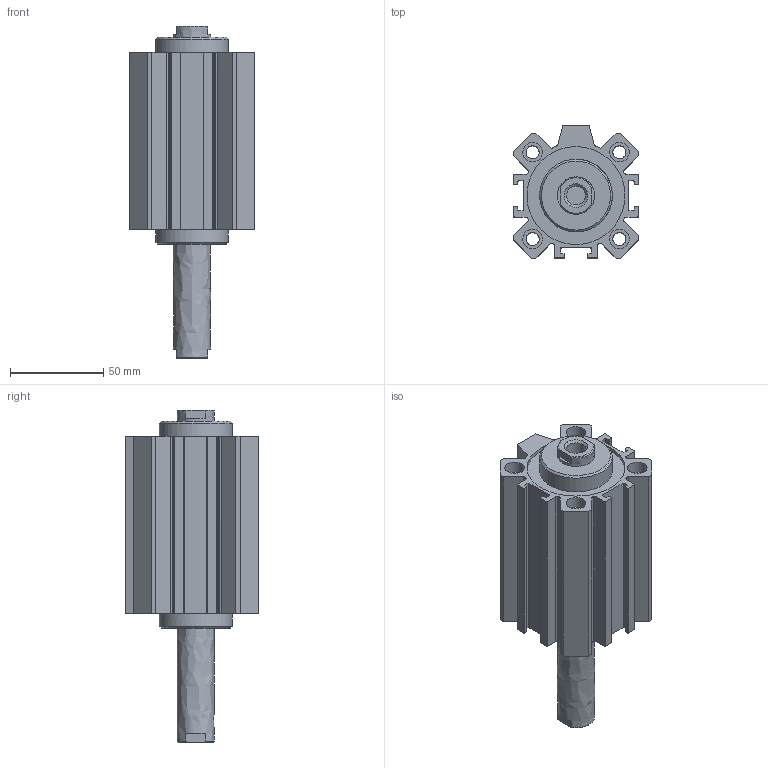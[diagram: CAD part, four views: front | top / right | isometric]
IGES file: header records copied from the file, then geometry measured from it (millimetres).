
Global section: file name: 1514_50_0055; native system: Autodesk Inventor 2014; preprocessor: unknown; author: A. Manieri; date: 20160824.134212; units: millimetre
Bounding box: 67 x 71 x 178 mm (x, y, z)
Volume: 275328.5 mm3; surface area: 89641 mm2
Topology: 2 solids, 2 shells, 178 faces, 482 edges, 328 vertices
Faces by surface type: bspline 178
